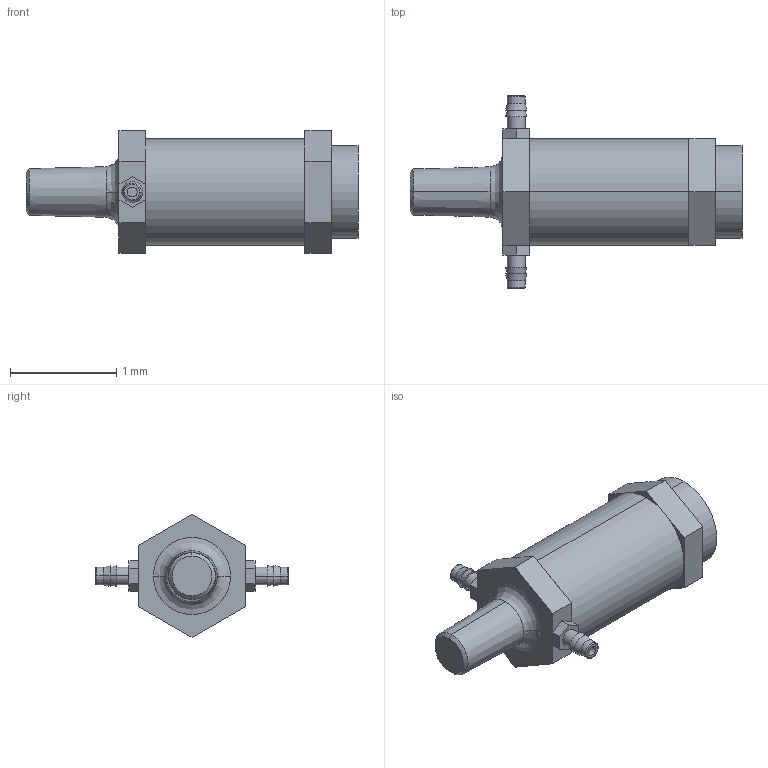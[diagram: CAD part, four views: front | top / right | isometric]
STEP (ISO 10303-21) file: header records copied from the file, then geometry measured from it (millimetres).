
FILE_DESCRIPTION((''),'2;1');
FILE_NAME('UBR2.stp','2017-11-07T11:14:55',(''),(''),'Mechanical Desktop 2011','Mechanical Desktop 2011',', , ');
FILE_SCHEMA(('CONFIG_CONTROL_DESIGN'));
Length unit declared in the file: millimetre
Products named in the file (1): Product
Bounding box: 3.12 x 1.81 x 1.15 mm (x, y, z)
Volume: 1.9 mm3; surface area: 15.5 mm2
Topology: 6 solids, 6 shells, 77 faces, 165 edges, 107 vertices
Faces by surface type: plane 43, cylinder 16, cone 12, torus 4, bspline 2
Entity records: 2265 total; most frequent: CARTESIAN_POINT 438, DIRECTION 382, ORIENTED_EDGE 330, EDGE_CURVE 165, AXIS2_PLACEMENT_3D 141, VERTEX_POINT 107, VECTOR 100, LINE 100
